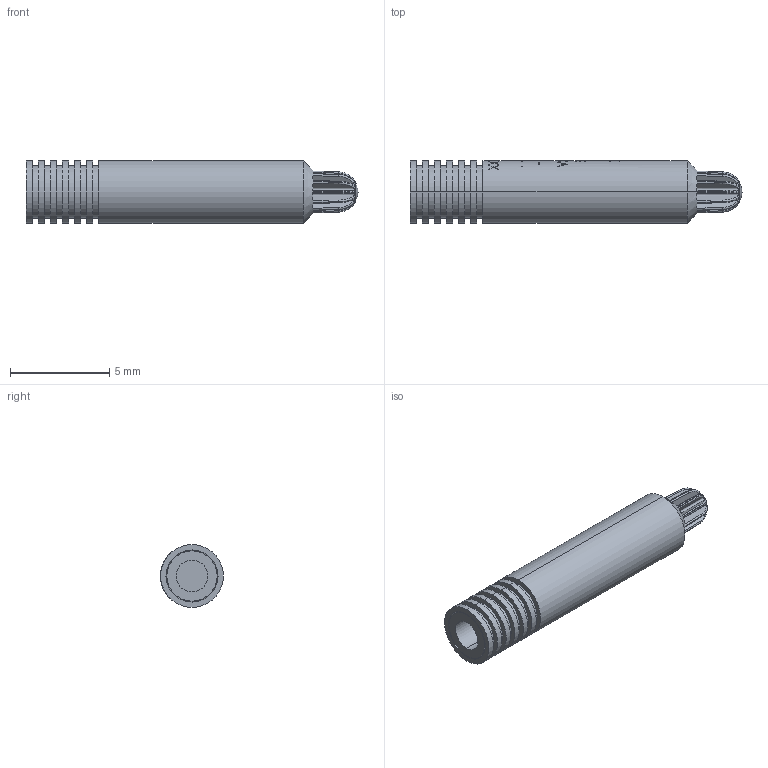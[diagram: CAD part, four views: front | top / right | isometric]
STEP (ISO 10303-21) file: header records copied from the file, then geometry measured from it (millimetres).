
FILE_DESCRIPTION (( 'STEP AP214' ), '1' );
FILE_NAME ('VHCA12------.STEP', '2021-04-20T13:51:52', ( '' ), ( '' ), 'SwSTEP 2.0', 'SolidWorks 2019', '' );
FILE_SCHEMA (( 'AUTOMOTIVE_DESIGN' ));
Length unit declared in the file: inch
Products named in the file (1): VHCA12------
Bounding box: 16.76 x 3.17 x 3.17 mm (x, y, z)
Volume: 104 mm3; surface area: 235.7 mm2
Topology: 1 solids, 1 shells, 398 faces, 1020 edges, 663 vertices
Faces by surface type: plane 155, bspline 130, cylinder 70, torus 24, cone 17, sphere 2
Entity records: 19064 total; most frequent: CARTESIAN_POINT 5771, ORIENTED_EDGE 2040, DIRECTION 1497, EDGE_CURVE 1020, VERTEX_POINT 663, AXIS2_PLACEMENT_3D 633, EDGE_LOOP 437, B_SPLINE_CURVE_WITH_KNOTS 425
